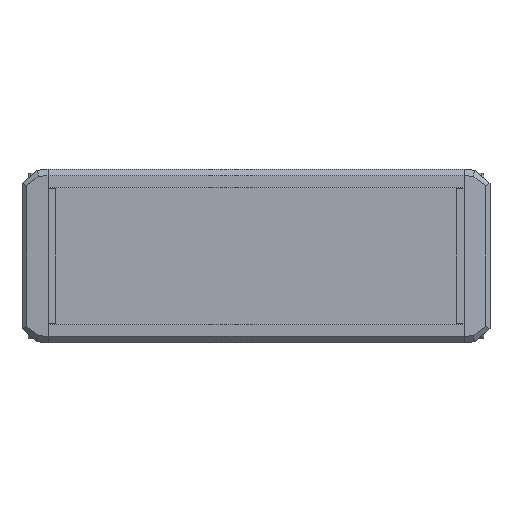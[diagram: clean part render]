
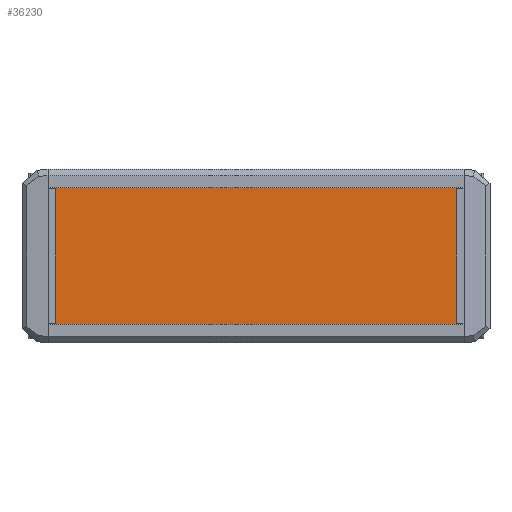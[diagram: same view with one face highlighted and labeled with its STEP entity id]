
A CAD part, front view. The second image highlights one B-rep face of the part: STEP entity #36230.
In plain terms, the highlighted planar face has unit normal (0, -1, 0) as drawn and (0, 1, 0) by its records, which use the part's own axes.
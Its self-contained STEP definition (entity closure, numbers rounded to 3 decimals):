
#36086=DIRECTION('',(-1.,0.,0.));
#36087=VECTOR('',#36086,34.6);
#36088=CARTESIAN_POINT('',(17.3,2.,-48.1));
#36089=LINE('',#36088,#36087);
#36107=DIRECTION('',(0.,0.,1.));
#36108=VECTOR('',#36107,96.2);
#36109=CARTESIAN_POINT('',(-17.3,2.,-48.1));
#36110=LINE('',#36109,#36108);
#36114=DIRECTION('',(0.,0.,1.));
#36115=VECTOR('',#36114,96.2);
#36116=CARTESIAN_POINT('',(17.3,2.,-48.1));
#36117=LINE('',#36116,#36115);
#36142=DIRECTION('',(-1.,0.,0.));
#36143=VECTOR('',#36142,34.6);
#36144=CARTESIAN_POINT('',(17.3,2.,48.1));
#36145=LINE('',#36144,#36143);
#36160=CARTESIAN_POINT('',(17.3,2.,-48.1));
#36161=VERTEX_POINT('',#36160);
#36162=CARTESIAN_POINT('',(-17.3,2.,-48.1));
#36163=VERTEX_POINT('',#36162);
#36168=CARTESIAN_POINT('',(17.3,2.,48.1));
#36169=VERTEX_POINT('',#36168);
#36170=CARTESIAN_POINT('',(-17.3,2.,48.1));
#36171=VERTEX_POINT('',#36170);
#36217=CARTESIAN_POINT('',(17.3,2.,-48.1));
#36218=DIRECTION('',(0.,1.,0.));
#36219=DIRECTION('',(-1.,0.,0.));
#36220=AXIS2_PLACEMENT_3D('',#36217,#36218,#36219);
#36221=PLANE('',#36220);
#36222=ORIENTED_EDGE('',*,*,#36181,.F.);
#36224=ORIENTED_EDGE('',*,*,#36223,.T.);
#36226=ORIENTED_EDGE('',*,*,#36225,.T.);
#36227=ORIENTED_EDGE('',*,*,#36209,.F.);
#36228=EDGE_LOOP('',(#36222,#36224,#36226,#36227));
#36229=FACE_OUTER_BOUND('',#36228,.F.);
#36181=EDGE_CURVE('',#36161,#36163,#36089,.T.);
#36209=EDGE_CURVE('',#36163,#36171,#36110,.T.);
#36223=EDGE_CURVE('',#36161,#36169,#36117,.T.);
#36225=EDGE_CURVE('',#36169,#36171,#36145,.T.);
#36230=ADVANCED_FACE('',(#36229),#36221,.T.);
